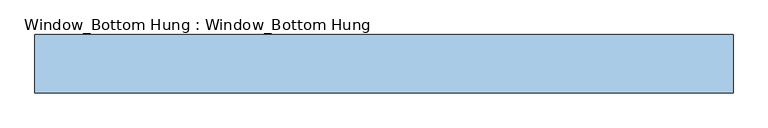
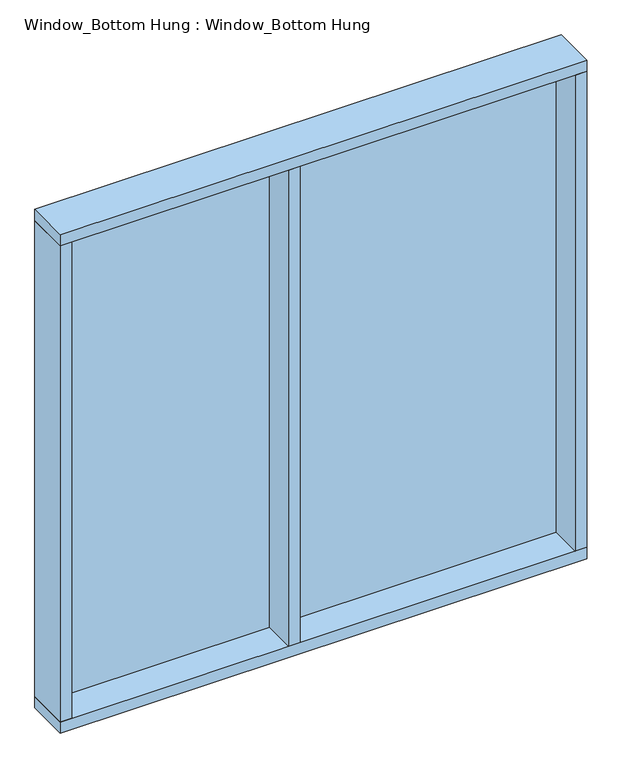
"""IFC4 building model written with IfcOpenShell, lengths in millimetres: window geometry, Window_Bottom Hung : Window_Bottom Hung."""

import ifcopenshell
import ifcopenshell.guid

model = None  # the IFC model being written
_history = None  # IfcOwnerHistory: only IFC2X3 demands one
_inside = {}  # id of a spatial element -> (the spatial element, [elements in it])
_under = {}  # id of a project, library or spatial element -> (it, [spatial elements below it])
_declared = {}  # id of a project -> (the project, [libraries it declares])
_typed = {}  # id of a type object -> (the type object, [elements of that type])
_made_of = {}  # id of a material, layer set ... -> (it, [elements and type objects made of it])


def new_model(schema):
    """Start an empty IFC model of exactly this schema.

    Asked for "IFC4X3", IfcOpenShell would pick the latest addendum, in which some entities
    have other attributes; the version numbers below select the first issue.
    IFC2X3 requires an IfcOwnerHistory on every rooted entity: one is made here for all.
    """
    global model, _history
    if schema == "IFC4X3":
        model = ifcopenshell.file(schema_version=(4, 3, 0, 0))
    else:
        model = ifcopenshell.file(schema=schema)
    _inside.clear()
    _under.clear()
    _declared.clear()
    _typed.clear()
    _made_of.clear()
    _history = None
    if model.schema == "IFC2X3":
        org = make("IfcOrganization", Name="unknown")
        user = make(
            "IfcPersonAndOrganization",
            ThePerson=make("IfcPerson", FamilyName="unknown"),
            TheOrganization=org,
        )
        app = make(
            "IfcApplication",
            ApplicationDeveloper=org,
            Version="unknown",
            ApplicationFullName="unknown",
            ApplicationIdentifier="unknown",
        )
        _history = make(
            "IfcOwnerHistory",
            OwningUser=user,
            OwningApplication=app,
            ChangeAction="ADDED",
            CreationDate=0,
        )
    return model


def make(cls, **values):
    """One entity of the class cls with the attributes given. An attribute that is None is left unset."""
    return model.create_entity(
        cls, **{name: value for name, value in values.items() if value is not None}
    )


def rooted(cls, **values):
    """An entity with a GlobalId (a new one), such as an element, a storey or a relation."""
    return make(cls, GlobalId=ifcopenshell.guid.new(), OwnerHistory=_history, **values)


def si_unit(unit_type, name, prefix=None):
    """IfcSIUnit, for example si_unit("LENGTHUNIT", "METRE", prefix="MILLI")."""
    return make("IfcSIUnit", UnitType=unit_type, Prefix=prefix, Name=name)


def assignment(units):
    """IfcUnitAssignment: the units of a project."""
    return None if units is None else make("IfcUnitAssignment", Units=units)


def point(xyz):
    """IfcCartesianPoint."""
    return None if xyz is None else make("IfcCartesianPoint", Coordinates=xyz)


def direction(xyz):
    """IfcDirection."""
    return None if xyz is None else make("IfcDirection", DirectionRatios=xyz)


def frame(location, z_axis=None, x_axis=None):
    """IfcAxis2Placement3D, a coordinate frame: its origin and axes. An axis left out is left unset."""
    return make(
        "IfcAxis2Placement3D",
        Location=point(location),
        Axis=direction(z_axis),
        RefDirection=direction(x_axis),
    )


def origin():
    """The frame at (0, 0, 0) with its axes left unset."""
    return frame((0.0, 0.0, 0.0))


def place(relative_to, where):
    """IfcLocalPlacement: puts the frame where relative to a parent placement (None: the world)."""
    return make(
        "IfcLocalPlacement", PlacementRelTo=relative_to, RelativePlacement=where
    )


def context(
    kind, dimensions, precision=None, world=None, true_north=None, identifier=None
):
    """IfcGeometricRepresentationContext, for example the 3D "Model" context."""
    return make(
        "IfcGeometricRepresentationContext",
        ContextIdentifier=identifier,
        ContextType=kind,
        CoordinateSpaceDimension=dimensions,
        Precision=precision,
        WorldCoordinateSystem=world,
        TrueNorth=true_north,
    )


def project(units=None, contexts=None):
    """IfcProject with its units and contexts."""
    return rooted(
        "IfcProject",
        Name="project",
        RepresentationContexts=contexts,
        UnitsInContext=assignment(units),
    )


def spatial(cls, under=None, at=None, **own):
    """A site, building, storey or space (cls), placed at a placement, below another one or the project."""
    s = rooted(cls, ObjectPlacement=at, **own)
    if under is not None:
        _under.setdefault(under.id(), (under, []))[1].append(s)
    return s


def polyline(points):
    """IfcPolyline through the points."""
    return make("IfcPolyline", Points=[point(p) for p in points])


def outline(outer, holes=None, kind="AREA"):
    """IfcArbitraryClosedProfileDef: a profile drawn as a closed curve; with holes, ...WithVoids."""
    if holes is None:
        return make("IfcArbitraryClosedProfileDef", ProfileType=kind, OuterCurve=outer)
    return make(
        "IfcArbitraryProfileDefWithVoids",
        ProfileType=kind,
        OuterCurve=outer,
        InnerCurves=holes,
    )


def extrude(swept, where, along, depth):
    """IfcExtrudedAreaSolid: the profile swept, set in the frame where, extruded along a direction by depth."""
    return make(
        "IfcExtrudedAreaSolid",
        SweptArea=swept,
        Position=where,
        ExtrudedDirection=direction(along),
        Depth=depth,
    )


def shape(context_of_items, identifier, shape_type, items):
    """IfcShapeRepresentation: the items that make up one representation, for example the "Body"."""
    return make(
        "IfcShapeRepresentation",
        ContextOfItems=context_of_items,
        RepresentationIdentifier=identifier,
        RepresentationType=shape_type,
        Items=items,
    )


def source(mapping_origin, context_of_items, identifier, shape_type, items):
    """IfcRepresentationMap: a shape defined once, which mapped items show again and again."""
    return make(
        "IfcRepresentationMap",
        MappingOrigin=mapping_origin,
        MappedRepresentation=shape(context_of_items, identifier, shape_type, items),
    )


def transform(
    local_origin,
    x_axis=None,
    y_axis=None,
    z_axis=None,
    scale=None,
    scale2=None,
    scale3=None,
    uniform=True,
):
    """IfcCartesianTransformationOperator3D, or its non-uniform kind. x_axis, y_axis, z_axis: its Axis1, 2, 3."""
    if uniform:
        return make(
            "IfcCartesianTransformationOperator3D",
            Axis1=direction(x_axis),
            Axis2=direction(y_axis),
            LocalOrigin=point(local_origin),
            Scale=scale,
            Axis3=direction(z_axis),
        )
    return make(
        "IfcCartesianTransformationOperator3DnonUniform",
        Axis1=direction(x_axis),
        Axis2=direction(y_axis),
        LocalOrigin=point(local_origin),
        Scale=scale,
        Axis3=direction(z_axis),
        Scale2=scale2,
        Scale3=scale3,
    )


def mapped(mapping_source, mapping_target):
    """IfcMappedItem: shows the shape of a source again, moved by a transform."""
    return make(
        "IfcMappedItem", MappingSource=mapping_source, MappingTarget=mapping_target
    )


def made_of(thing, what):
    """Note that an element or type object is made of a material, layer set ...; save() writes the relation."""
    if what is not None:
        _made_of.setdefault(what.id(), (what, []))[1].append(thing)
    return thing


def element(
    cls,
    number,
    at=None,
    inside=None,
    cuts=None,
    type_object=None,
    material=None,
    context=None,
    identifier="Body",
    shape_type=None,
    held_by="IfcProductDefinitionShape",
    body=None,
    shapes=None,
    **own,
):
    """One element of the class cls, such as IfcWall. Its Tag is "e" and its number.

    at: its placement. inside: the storey or other place that contains it. cuts: it is an
    opening in that element (IfcRelVoidsElement). A single representation is given by context,
    identifier, shape_type and body (its items); several are given by shapes. held_by: the class
    of the entity that holds the representations. save() writes the other relations.
    """
    e = rooted(cls, Tag="e%d" % number, ObjectPlacement=at, **own)
    if body is not None:
        shapes = [shape(context, identifier, shape_type, body)]
    if shapes is not None:
        e.Representation = make(held_by, Representations=shapes)
    if inside is not None:
        _inside.setdefault(inside.id(), (inside, []))[1].append(e)
    if cuts is not None:
        rooted(
            "IfcRelVoidsElement", RelatingBuildingElement=cuts, RelatedOpeningElement=e
        )
    if type_object is not None:
        _typed.setdefault(type_object.id(), (type_object, []))[1].append(e)
    return made_of(e, material)


def aggregate(whole, parts):
    """IfcRelAggregates: a whole, such as a stair, and the parts it consists of."""
    return rooted("IfcRelAggregates", RelatingObject=whole, RelatedObjects=parts)


def save(model, path):
    """Write the relations noted so far, then the file.

    IfcRelAggregates (storeys below a building ...), IfcRelContainedInSpatialStructure (elements
    in a storey), IfcRelDefinesByType, IfcRelAssociatesMaterial and IfcRelDeclares: one each for
    every whole, place, type object, material and project.
    """
    for whole, parts in _under.values():
        aggregate(whole, parts)
    for where, things in _inside.values():
        rooted(
            "IfcRelContainedInSpatialStructure",
            RelatedElements=things,
            RelatingStructure=where,
        )
    for kind, things in _typed.values():
        rooted("IfcRelDefinesByType", RelatedObjects=things, RelatingType=kind)
    for what, things in _made_of.values():
        rooted("IfcRelAssociatesMaterial", RelatedObjects=things, RelatingMaterial=what)
    for by, libraries in _declared.values():
        rooted("IfcRelDeclares", RelatingContext=by, RelatedDefinitions=libraries)
    model.write(path)


def window_bottom_hung_window_bottom_hung_7567f9e0(model_context):
    return source(origin(), model_context, "Body", "SweptSolid", [
        extrude(outline(polyline([(860.0, 98.0), (-80.0, 98.0), (-80.0, 110.0), (860.0, 110.0), (860.0, 98.0)])), frame((0.0, 0.0, 1040.0), z_axis=(0.0, 0.0, 1.0), x_axis=(1.0, 0.0, 0.0)), (0.0, 0.0, 1.0), 1720.0),
        extrude(outline(polyline([(-120.0, 98.0), (-860.0, 98.0), (-860.0, 110.0), (-120.0, 110.0), (-120.0, 98.0)])), frame((0.0, 0.0, 1040.0), z_axis=(0.0, 0.0, 1.0), x_axis=(1.0, 0.0, 0.0)), (0.0, 0.0, 1.0), 1720.0),
        extrude(outline(polyline([(900.0, 135.0), (900.0, -15.0), (-900.0, -15.0), (-900.0, 135.0), (900.0, 135.0)])), frame((0.0, 0.0, 2760.0), z_axis=(0.0, 0.0, 1.0), x_axis=(1.0, 0.0, 0.0)), (0.0, 0.0, 1.0), 40.0),
        extrude(outline(polyline([(900.0, 135.0), (900.0, -15.0), (-900.0, -15.0), (-900.0, 135.0), (900.0, 135.0)])), frame((0.0, 0.0, 1000.0), z_axis=(0.0, 0.0, 1.0), x_axis=(1.0, 0.0, 0.0)), (0.0, 0.0, 1.0), 40.0),
        extrude(outline(polyline([(-120.0, -15.0), (-120.0, 135.0), (-80.0, 135.0), (-80.0, -15.0), (-120.0, -15.0)])), frame((0.0, 0.0, 1040.0), z_axis=(0.0, 0.0, 1.0), x_axis=(1.0, 0.0, 0.0)), (0.0, 0.0, 1.0), 1720.0),
        extrude(outline(polyline([(-860.0, -15.0), (-900.0, -15.0), (-900.0, 135.0), (-860.0, 135.0), (-860.0, -15.0)])), frame((0.0, 0.0, 1040.0), z_axis=(0.0, 0.0, 1.0), x_axis=(1.0, 0.0, 0.0)), (0.0, 0.0, 1.0), 1720.0),
        extrude(outline(polyline([(860.0, -15.0), (860.0, 135.0), (900.0, 135.0), (900.0, -15.0), (860.0, -15.0)])), frame((0.0, 0.0, 1040.0), z_axis=(0.0, 0.0, 1.0), x_axis=(1.0, 0.0, 0.0)), (0.0, 0.0, 1.0), 1720.0),
    ])


if __name__ == "__main__":
    model = new_model("IFC4")
    model_context = context("Model", 3, world=origin())
    ifc_project = project(units=[si_unit("LENGTHUNIT", "METRE", prefix="MILLI")], contexts=[model_context])
    site = spatial("IfcSite", under=ifc_project)
    building = spatial("IfcBuilding", under=site)
    placement = place(None, origin())
    window_bottom_hung_window_bottom_hung_shape = window_bottom_hung_window_bottom_hung_7567f9e0(model_context)
    element("IfcWindow", 1, ObjectType="Window_Bottom Hung : Window_Bottom Hung", at=placement, inside=building, context=model_context, shape_type="MappedRepresentation", body=[
        mapped(window_bottom_hung_window_bottom_hung_shape, transform((0.0, 0.0, 0.0), x_axis=(1.0, 0.0, 0.0), y_axis=(0.0, 1.0, 0.0), z_axis=(0.0, 0.0, 1.0))),
    ])
    save(model, "model.ifc")
